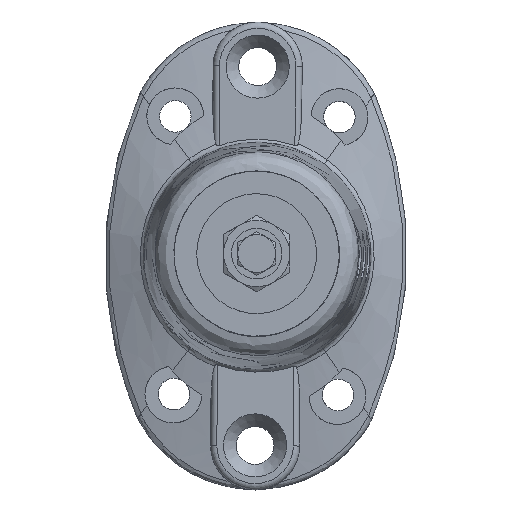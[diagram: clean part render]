
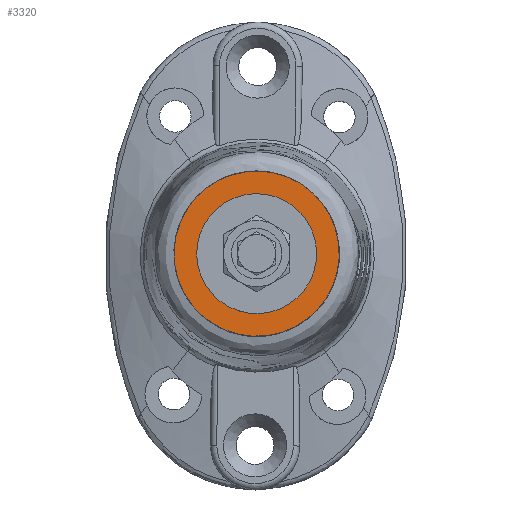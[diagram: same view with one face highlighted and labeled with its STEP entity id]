
A CAD part, top view. The second image highlights one B-rep face of the part: STEP entity #3320.
In plain terms, the highlighted planar face has unit normal (0, 0, 1) as drawn and (0, 1, 0) by its records, which use the part's own axes.
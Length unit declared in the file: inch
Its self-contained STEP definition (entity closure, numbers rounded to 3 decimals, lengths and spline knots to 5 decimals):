
#198=PLANE($,#3629);
#588=FACE_BOUND($,#980,.T.);
#589=FACE_BOUND($,#981,.T.);
#980=EDGE_LOOP($,(#2688));
#981=EDGE_LOOP($,(#2689));
#1311=CIRCLE($,#3616,0.75);
#1317=CIRCLE($,#3628,1.63524);
#1605=VERTEX_POINT($,#7367);
#1611=VERTEX_POINT($,#7385);
#1991=EDGE_CURVE($,#1605,#1605,#1311,.T.);
#1997=EDGE_CURVE($,#1611,#1611,#1317,.T.);
#2688=ORIENTED_EDGE($,*,*,#1991,.F.);
#2689=ORIENTED_EDGE($,*,*,#1997,.T.);
#3320=ADVANCED_FACE($,(#588,#589),#198,.T.);
#3616=AXIS2_PLACEMENT_3D($,#7368,#4267,#4268);
#3628=AXIS2_PLACEMENT_3D($,#7386,#4291,#4292);
#3629=AXIS2_PLACEMENT_3D($,#7387,#4293,#4294);
#4267=DIRECTION('center_axis',(0.,1.,0.));
#4268=DIRECTION('ref_axis',(-1.,0.,0.));
#4291=DIRECTION('center_axis',(0.,1.,0.));
#4292=DIRECTION('ref_axis',(-1.,0.,0.));
#4293=DIRECTION('center_axis',(0.,1.,0.));
#4294=DIRECTION('ref_axis',(0.,0.,1.));
#7367=CARTESIAN_POINT('',(-0.2417,0.17623,0.));
#7368=CARTESIAN_POINT('Origin',(0.5083,0.17623,0.));
#7385=CARTESIAN_POINT('',(-1.12694,0.17623,0.));
#7386=CARTESIAN_POINT('Origin',(0.5083,0.17623,0.));
#7387=CARTESIAN_POINT('Origin',(-0.68432,0.17623,0.));
